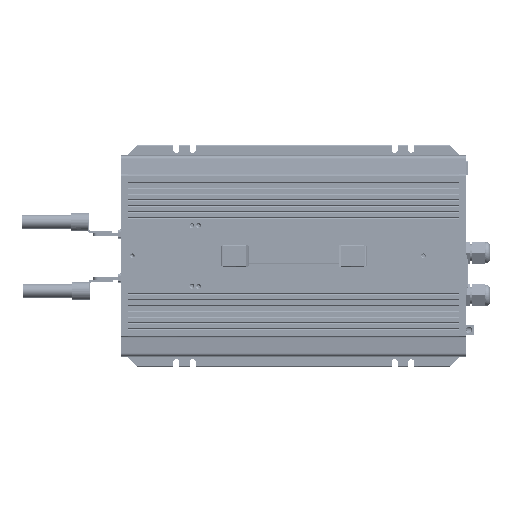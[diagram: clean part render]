
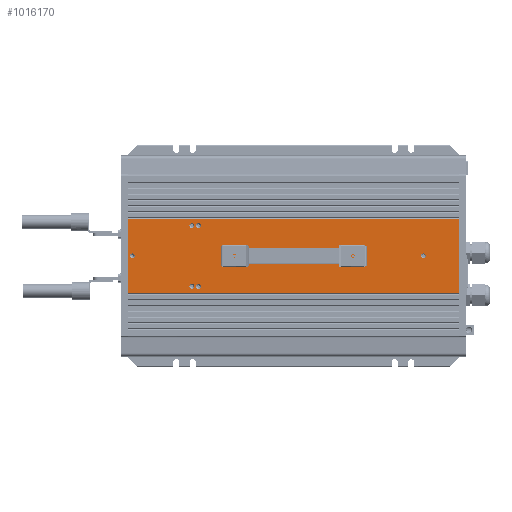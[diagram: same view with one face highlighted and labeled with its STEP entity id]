
A CAD part, top view. The second image highlights one B-rep face of the part: STEP entity #1016170.
In plain terms, the highlighted planar face has unit normal (0, 0, 1) as drawn and (0, 1, 0) by its records, which use the part's own axes.
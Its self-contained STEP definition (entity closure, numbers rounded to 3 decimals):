
#993490=CARTESIAN_POINT('',(2078.449,98.104,-63.1));
#993500=VERTEX_POINT('',#993490);
#993530=CARTESIAN_POINT('',(1988.299,98.104,-63.1));
#993540=DIRECTION('',(1.,0.,0.));
#993550=VECTOR('',#993540,90.15);
#993560=LINE('',#993530,#993550);
#993570=CARTESIAN_POINT('',(1988.299,98.104,-63.1));
#993580=VERTEX_POINT('',#993570);
#993590=EDGE_CURVE('',#993580,#993500,#993560,.T.);
#1002470=CARTESIAN_POINT('',(1988.299,98.104,340.9));
#1002480=VERTEX_POINT('',#1002470);
#1002510=CARTESIAN_POINT('',(2078.449,98.104,340.9));
#1002520=DIRECTION('',(-1.,0.,0.));
#1002530=VECTOR('',#1002520,90.15);
#1002540=LINE('',#1002510,#1002530);
#1002550=CARTESIAN_POINT('',(2078.449,98.104,340.9));
#1002560=VERTEX_POINT('',#1002550);
#1002570=EDGE_CURVE('',#1002560,#1002480,#1002540,.T.);
#1014310=CARTESIAN_POINT('',(2030.374,98.104,296.9));
#1014320=VERTEX_POINT('',#1014310);
#1014350=CARTESIAN_POINT('',(2033.374,98.104,296.9));
#1014360=DIRECTION('',(0.,-1.,0.));
#1014370=DIRECTION('',(1.,0.,0.));
#1014380=AXIS2_PLACEMENT_3D('',#1014350,#1014360,#1014370);
#1014390=CIRCLE('',#1014380,3.);
#1014400=CARTESIAN_POINT('',(2036.374,98.104,296.9));
#1014410=VERTEX_POINT('',#1014400);
#1014420=EDGE_CURVE('',#1014320,#1014410,#1014390,.T.);
#1014820=CARTESIAN_POINT('',(2028.721,98.104,122.9));
#1014830=DIRECTION('',(0.,-1.,0.));
#1014840=DIRECTION('',(1.,0.,0.));
#1014850=AXIS2_PLACEMENT_3D('',#1014820,#1014830,#1014840);
#1014860=PLANE('',#1014850);
#1014870=CARTESIAN_POINT('',(2033.376,98.104,210.9));
#1014880=DIRECTION('',(0.,1.,0.));
#1014890=DIRECTION('',(0.,0.,1.));
#1014900=AXIS2_PLACEMENT_3D('',#1014870,#1014880,#1014890);
#1014910=CIRCLE('',#1014900,1.6);
#1014920=CARTESIAN_POINT('',(2033.376,98.104,209.3));
#1014930=VERTEX_POINT('',#1014920);
#1014940=CARTESIAN_POINT('',(2033.376,98.104,212.5));
#1014950=VERTEX_POINT('',#1014940);
#1014960=EDGE_CURVE('',#1014930,#1014950,#1014910,.T.);
#1014970=ORIENTED_EDGE('',*,*,#1014960,.F.);
#1014980=EDGE_CURVE('',#1014950,#1014930,#1014910,.T.);
#1014990=ORIENTED_EDGE('',*,*,#1014980,.F.);
#1015000=EDGE_LOOP('',(#1014990,#1014970));
#1015010=FACE_BOUND('',#1015000,.T.);
#1015020=CARTESIAN_POINT('',(1996.284,98.104,22.949
));
#1015030=DIRECTION('',(0.,1.,0.));
#1015040=DIRECTION('',(1.,0.,0.));
#1015050=AXIS2_PLACEMENT_3D('',#1015020,#1015030,#1015040);
#1015060=CIRCLE('',#1015050,3.);
#1015070=CARTESIAN_POINT('',(1996.284,98.104,19.949
));
#1015080=VERTEX_POINT('',#1015070);
#1015090=CARTESIAN_POINT('',(1993.284,98.104,22.949
));
#1015100=VERTEX_POINT('',#1015090);
#1015110=EDGE_CURVE('',#1015080,#1015100,#1015060,.T.);
#1015120=ORIENTED_EDGE('',*,*,#1015110,.F.);
#1015130=CARTESIAN_POINT('',(1999.284,98.104,22.949
));
#1015140=VERTEX_POINT('',#1015130);
#1015150=EDGE_CURVE('',#1015100,#1015140,#1015060,.T.);
#1015160=ORIENTED_EDGE('',*,*,#1015150,.F.);
#1015170=EDGE_CURVE('',#1015140,#1015080,#1015060,.T.);
#1015180=ORIENTED_EDGE('',*,*,#1015170,.F.);
#1015190=EDGE_LOOP('',(#1015180,#1015160,#1015120));
#1015200=FACE_BOUND('',#1015190,.T.);
#1015210=EDGE_CURVE('',#1014410,#1014320,#1014390,.T.);
#1015220=ORIENTED_EDGE('',*,*,#1015210,.T.);
#1015230=ORIENTED_EDGE('',*,*,#1014420,.T.);
#1015240=EDGE_LOOP('',(#1015230,#1015220));
#1015250=FACE_BOUND('',#1015240,.T.);
#1015260=CARTESIAN_POINT('',(2033.376,98.104,-57.6));
#1015270=DIRECTION('',(0.,-1.,0.));
#1015280=DIRECTION('',(-1.,0.,0.));
#1015290=AXIS2_PLACEMENT_3D('',#1015260,#1015270,#1015280);
#1015300=CIRCLE('',#1015290,3.);
#1015310=CARTESIAN_POINT('',(2030.376,98.104,
-57.6));
#1015320=VERTEX_POINT('',#1015310);
#1015330=CARTESIAN_POINT('',(2036.376,98.104,
-57.6));
#1015340=VERTEX_POINT('',#1015330);
#1015350=EDGE_CURVE('',#1015320,#1015340,#1015300,.T.);
#1015360=ORIENTED_EDGE('',*,*,#1015350,.T.);
#1015370=EDGE_CURVE('',#1015340,#1015320,#1015300,.T.);
#1015380=ORIENTED_EDGE('',*,*,#1015370,.T.);
#1015390=EDGE_LOOP('',(#1015380,#1015360));
#1015400=FACE_BOUND('',#1015390,.T.);
#1015410=CARTESIAN_POINT('',(2070.318,98.104,14.949));
#1015420=DIRECTION('',(0.,1.,0.));
#1015430=DIRECTION('',(1.,0.,0.));
#1015440=AXIS2_PLACEMENT_3D('',#1015410,#1015420,#1015430);
#1015450=CIRCLE('',#1015440,3.);
#1015460=CARTESIAN_POINT('',(2073.318,98.104,14.949));
#1015470=VERTEX_POINT('',#1015460);
#1015480=CARTESIAN_POINT('',(2067.318,98.104,14.949));
#1015490=VERTEX_POINT('',#1015480);
#1015500=EDGE_CURVE('',#1015470,#1015490,#1015450,.T.);
#1015510=ORIENTED_EDGE('',*,*,#1015500,.F.);
#1015520=EDGE_CURVE('',#1015490,#1015470,#1015450,.T.);
#1015530=ORIENTED_EDGE('',*,*,#1015520,.F.);
#1015540=EDGE_LOOP('',(#1015530,#1015510));
#1015550=FACE_BOUND('',#1015540,.T.);
#1015560=CARTESIAN_POINT('',(1996.284,98.104,14.949
));
#1015570=DIRECTION('',(0.,1.,0.));
#1015580=DIRECTION('',(1.,0.,0.));
#1015590=AXIS2_PLACEMENT_3D('',#1015560,#1015570,#1015580);
#1015600=CIRCLE('',#1015590,3.);
#1015610=CARTESIAN_POINT('',(1993.284,98.104,14.949
));
#1015620=VERTEX_POINT('',#1015610);
#1015630=CARTESIAN_POINT('',(1999.284,98.104,14.949
));
#1015640=VERTEX_POINT('',#1015630);
#1015650=EDGE_CURVE('',#1015620,#1015640,#1015600,.T.);
#1015660=ORIENTED_EDGE('',*,*,#1015650,.F.);
#1015670=EDGE_CURVE('',#1015640,#1015620,#1015600,.T.);
#1015680=ORIENTED_EDGE('',*,*,#1015670,.F.);
#1015690=EDGE_LOOP('',(#1015680,#1015660));
#1015700=FACE_BOUND('',#1015690,.T.);
#1015710=CARTESIAN_POINT('',(2070.318,98.104,22.949));
#1015720=DIRECTION('',(0.,1.,0.));
#1015730=DIRECTION('',(1.,0.,0.));
#1015740=AXIS2_PLACEMENT_3D('',#1015710,#1015720,#1015730);
#1015750=CIRCLE('',#1015740,3.);
#1015760=CARTESIAN_POINT('',(2067.318,98.104,22.949));
#1015770=VERTEX_POINT('',#1015760);
#1015780=CARTESIAN_POINT('',(2073.318,98.104,22.949));
#1015790=VERTEX_POINT('',#1015780);
#1015800=EDGE_CURVE('',#1015770,#1015790,#1015750,.T.);
#1015810=ORIENTED_EDGE('',*,*,#1015800,.F.);
#1015820=EDGE_CURVE('',#1015790,#1015770,#1015750,.T.);
#1015830=ORIENTED_EDGE('',*,*,#1015820,.F.);
#1015840=EDGE_LOOP('',(#1015830,#1015810));
#1015850=FACE_BOUND('',#1015840,.T.);
#1015860=CARTESIAN_POINT('',(2033.376,98.104,66.9));
#1015870=DIRECTION('',(0.,1.,0.));
#1015880=DIRECTION('',(0.,0.,1.));
#1015890=AXIS2_PLACEMENT_3D('',#1015860,#1015870,#1015880);
#1015900=CIRCLE('',#1015890,1.6);
#1015910=CARTESIAN_POINT('',(2033.376,98.104,65.3));
#1015920=VERTEX_POINT('',#1015910);
#1015930=CARTESIAN_POINT('',(2033.376,98.104,68.5));
#1015940=VERTEX_POINT('',#1015930);
#1015950=EDGE_CURVE('',#1015920,#1015940,#1015900,.T.);
#1015960=ORIENTED_EDGE('',*,*,#1015950,.F.);
#1015970=EDGE_CURVE('',#1015940,#1015920,#1015900,.T.);
#1015980=ORIENTED_EDGE('',*,*,#1015970,.F.);
#1015990=EDGE_LOOP('',(#1015980,#1015960));
#1016000=FACE_BOUND('',#1015990,.T.);
#1016010=ORIENTED_EDGE('',*,*,#993590,.F.);
#1016020=CARTESIAN_POINT('',(2078.449,98.104,-63.1));
#1016030=DIRECTION('',(0.,0.,1.));
#1016040=VECTOR('',#1016030,404.);
#1016050=LINE('',#1016020,#1016040);
#1016060=EDGE_CURVE('',#993500,#1002560,#1016050,.T.);
#1016070=ORIENTED_EDGE('',*,*,#1016060,.F.);
#1016080=ORIENTED_EDGE('',*,*,#1002570,.F.);
#1016090=CARTESIAN_POINT('',(1988.299,98.104,340.9));
#1016100=DIRECTION('',(0.,0.,-1.));
#1016110=VECTOR('',#1016100,404.);
#1016120=LINE('',#1016090,#1016110);
#1016130=EDGE_CURVE('',#1002480,#993580,#1016120,.T.);
#1016140=ORIENTED_EDGE('',*,*,#1016130,.F.);
#1016150=EDGE_LOOP('',(#1016140,#1016080,#1016070,#1016010));
#1016160=FACE_OUTER_BOUND('',#1016150,.T.);
#1016170=ADVANCED_FACE('',(#1015010,#1015200,#1015250,#1015400,#1015550,
#1015700,#1015850,#1016000,#1016160),#1014860,.F.);
